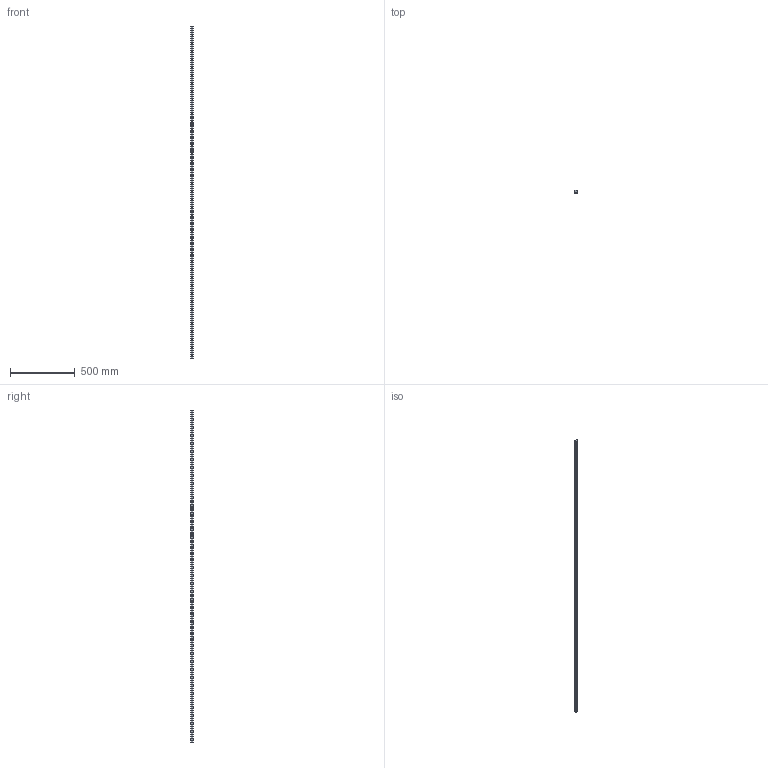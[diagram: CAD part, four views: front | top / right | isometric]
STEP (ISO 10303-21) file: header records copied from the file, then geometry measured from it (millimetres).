
FILE_DESCRIPTION (( 'STEP AP203' ), '1' );
FILE_NAME ('L1016.BRF25-2560.step', '2019-06-13T08:42:52', ( '' ), ( '' ), 'SwSTEP 2.0', 'SolidWorks 2017', '' );
FILE_SCHEMA (( 'CONFIG_CONTROL_DESIGN' ));
Length unit declared in the file: millimetre
Products named in the file (1): L1016.BRF25-2560
Bounding box: 23 x 19.2 x 2560 mm (x, y, z)
Volume: 977400.4 mm3; surface area: 235697.9 mm2
Topology: 1 solids, 1 shells, 327 faces, 760 edges, 435 vertices
Faces by surface type: cylinder 176, cone 86, plane 65
Entity records: 8813 total; most frequent: DIRECTION 1682, CARTESIAN_POINT 1437, ORIENTED_EDGE 1348, AXIS2_PLACEMENT_3D 680, EDGE_CURVE 674, VERTEX_POINT 435, EDGE_LOOP 413, CIRCLE 352
